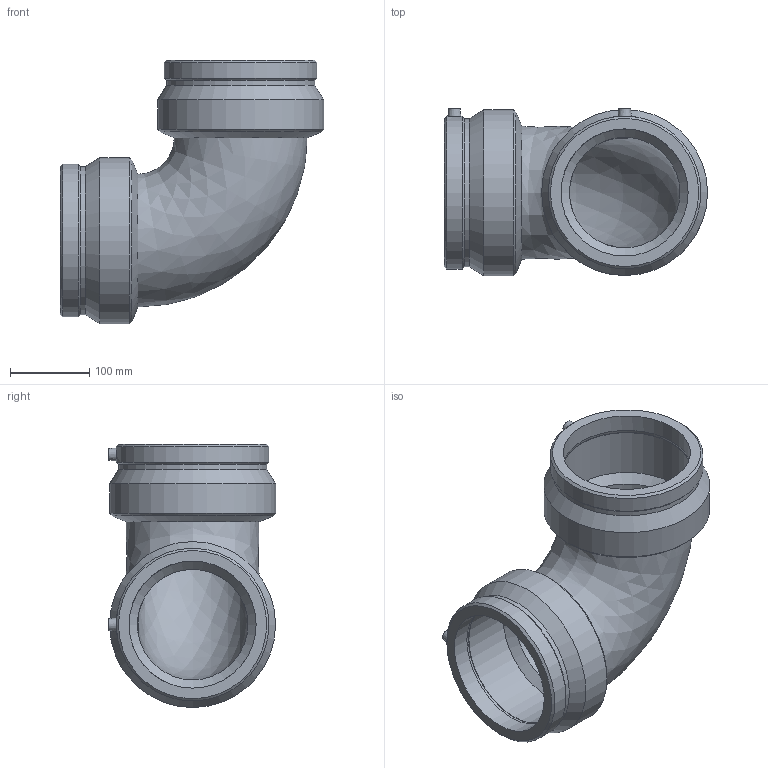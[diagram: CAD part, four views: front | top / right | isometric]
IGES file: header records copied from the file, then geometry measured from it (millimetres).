
Global section: file name: 490504160.ipt; native system: Autodesk Inventor 2015; preprocessor: unknown; author: KIM; date: 20171106.093641; units: millimetre
Bounding box: 331.36 x 210.5 x 331.36 mm (x, y, z)
Volume: 3588148.2 mm3; surface area: 458600.4 mm2
Topology: 1 solids, 1 shells, 44 faces, 102 edges, 66 vertices
Faces by surface type: cone 14, revolution 12, plane 10, cylinder 8
Full cylindrical faces by diameter (mm): 4 x2, 186.512 x2, 192.28 x2, 209 x2
